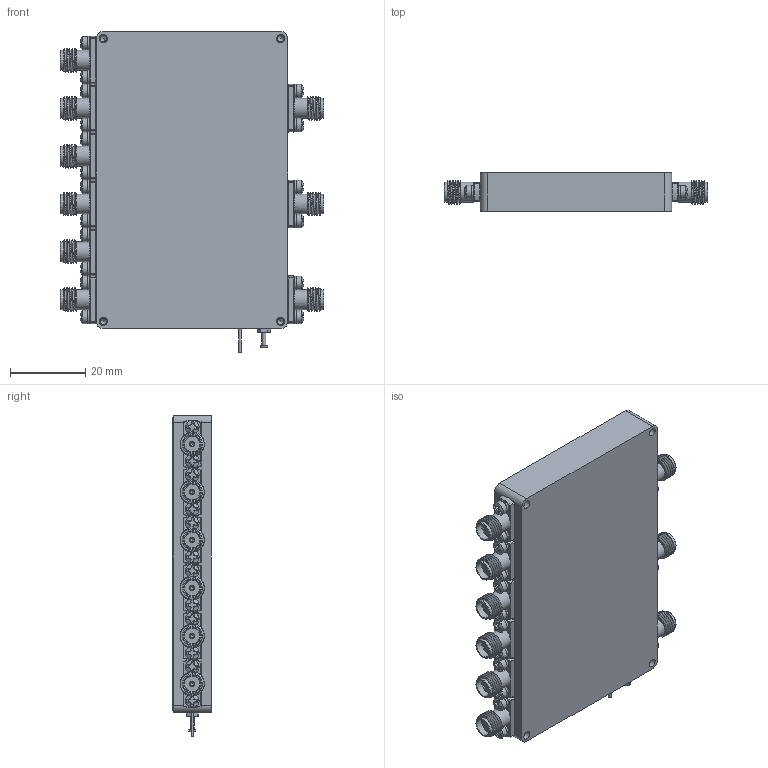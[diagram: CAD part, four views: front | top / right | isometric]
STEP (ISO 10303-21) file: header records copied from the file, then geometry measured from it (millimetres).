
FILE_DESCRIPTION (( 'STEP AP214' ), '1' );
FILE_NAME ('PIA-FLA-2G18G-3CH-CPL.STEP', '2024-10-02T14:17:10', ( '' ), ( '' ), 'SwSTEP 2.0', 'SolidWorks 2024', '' );
FILE_SCHEMA (( 'AUTOMOTIVE_DESIGN' ));
Length unit declared in the file: inch
Products named in the file (1): PIA-FLA-2G18G-3CH-CPL
Bounding box: 69.85 x 10.29 x 85.09 mm (x, y, z)
Volume: 43744.8 mm3; surface area: 24383.5 mm2
Topology: 77 solids, 77 shells, 1688 faces, 5449 edges, 4167 vertices
Faces by surface type: plane 882, cylinder 326, torus 217, cone 119, sphere 114, bspline 30
Full cylindrical faces by diameter (mm): 0.305 x18, 0.559 x9, 0.635 x1, 1.016 x9, 1.067 x1, 1.27 x9, 1.778 x4, 1.93 x1, 2.184 x23, 2.591 x18, 3.302 x9, 3.556 x18, 4.191 x18, 4.597 x9, 5.283 x18
Entity records: 95417 total; most frequent: CARTESIAN_POINT 27547, ORIENTED_EDGE 9850, DIRECTION 8640, EDGE_CURVE 4925, VERTEX_POINT 4108, AXIS2_PLACEMENT_3D 3130, EDGE_LOOP 2441, LINE 2380
